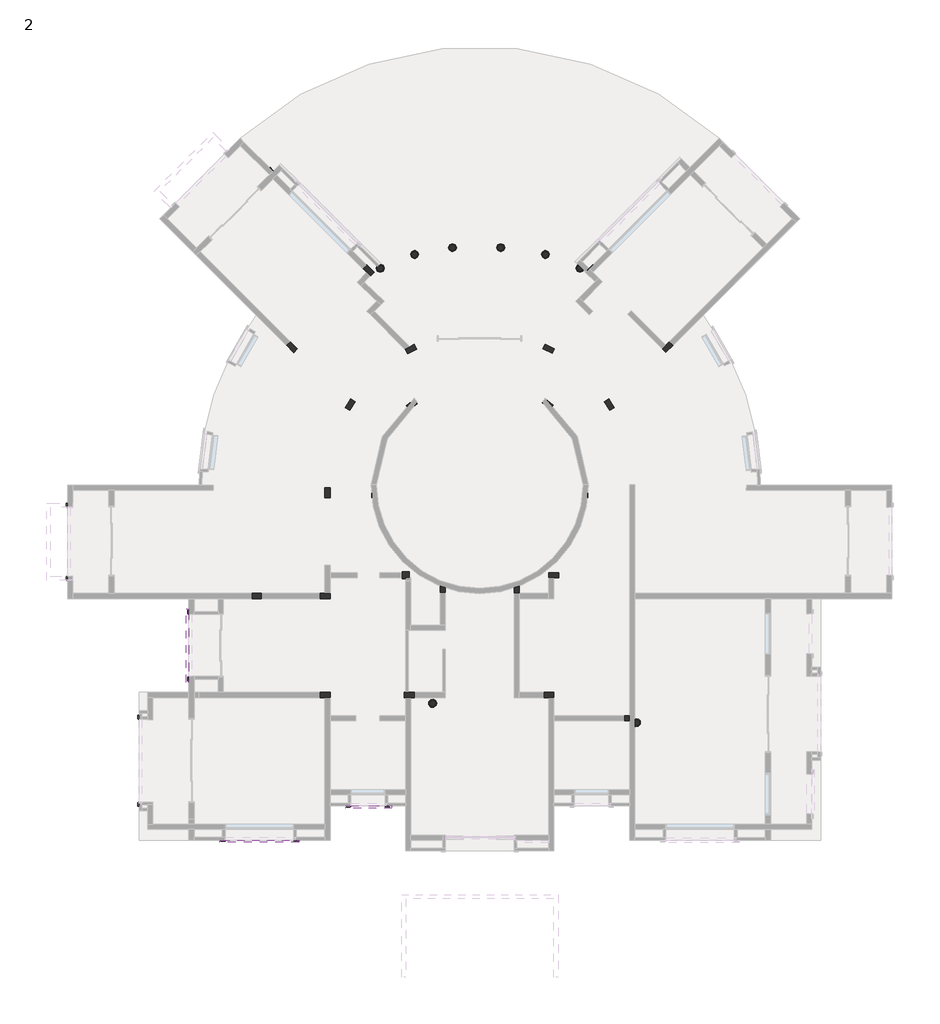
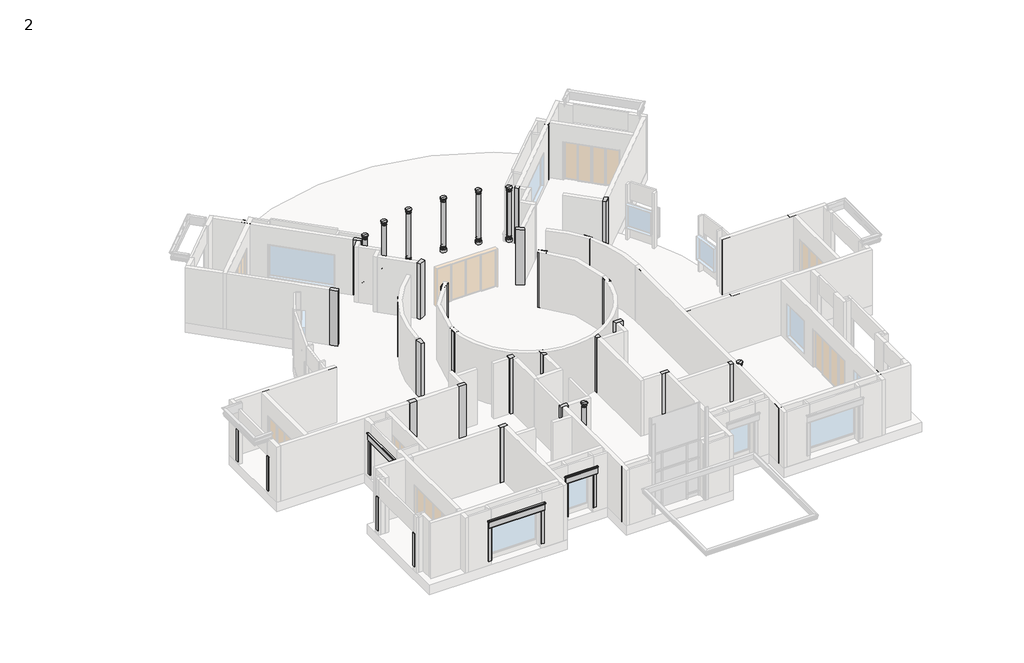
# One storey, part 8 of 10: 43 columns, 13 proxies.
"""IFC4 building model written with IfcOpenShell, lengths in millimetres."""

from ifc_helpers import new_model, si_unit, frame, origin, place, context, project, spatial, polyline, circle_curve, ellipse_curve, outline, extrude, transform, mapped, element, save
from ifc_brep_helpers import plane_surface, cylinder_surface, advanced_brep
from components import columns_1_columns_1_2be72e42, columns_5_columns_1_10ea2eeb, columns_6_columns_1_a7e48300, m_concrete_rectangular_column_300_x_450mm_4033bf20, m_concrete_rectangular_column_c1_cfff0284

model = new_model("IFC4")

# Units and contexts
model_context = context("Model", 3, world=origin())
ifc_project = project(units=[si_unit("LENGTHUNIT", "METRE", prefix="MILLI")], contexts=[model_context])

# Site, building, storey
site = spatial("IfcSite", under=ifc_project)
building = spatial("IfcBuilding", under=site)
storey = spatial("IfcBuildingStorey", under=building, Name="2", Elevation=0.0)

# Proxies
placement = place(None, origin())
element("IfcBuildingElementProxy", 1, Name="Cornice", ObjectType="Cornice", at=placement, inside=storey, context=model_context, shape_type="SweptSolid", body=[
    extrude(outline(polyline([(-19850.494385, -15195.2016601), (-19666.344385, -15195.2016601), (-19666.344385, -15233.3016601), (-19698.094385, -15233.3016601), (-19698.094385, -15246.0016601), (-19850.494385, -15246.0016601), (-19850.494385, -15195.2016601)])), frame((0.0, 0.0, 304.8), z_axis=(0.0, 0.0, 1.0), x_axis=(1.0, 0.0, 0.0)), (0.0, 0.0, 1.0), 2133.6),
])
element("IfcBuildingElementProxy", 2, Name="Cornice", ObjectType="Cornice", at=placement, inside=storey, context=model_context, shape_type="SweptSolid", body=[
    extrude(outline(polyline([(-16434.194385, -15186.1193311), (-16434.194385, -15236.9193311), (-16586.594385, -15236.9193311), (-16586.594385, -15224.2193311), (-16618.344385, -15224.2193311), (-16618.344385, -15186.1193311), (-16434.194385, -15186.1193311)])), frame((0.0, 0.0, 304.8), z_axis=(0.0, 0.0, 1.0), x_axis=(1.0, 0.0, 0.0)), (0.0, 0.0, 1.0), 2133.6),
])
element("IfcBuildingElementProxy", 3, Name="Cornice", ObjectType="Cornice", at=placement, inside=storey, context=model_context, shape_type="SweptSolid", body=[
    extrude(outline(polyline([(-21266.3950906, -8128.2892123), (-21317.1950906, -8128.2892123), (-21317.1950906, -7975.8892123), (-21304.4950906, -7975.8892123), (-21304.4950906, -7944.1392123), (-21266.3950906, -7944.1392123), (-21266.3950906, -8128.2892123)])), frame((0.0, 0.0, 279.4), z_axis=(0.0, 0.0, 1.0), x_axis=(1.0, 0.0, 0.0)), (0.0, 0.0, 1.0), 2159.0),
])
element("IfcBuildingElementProxy", 4, Name="Cornice", ObjectType="Cornice", at=placement, inside=storey, context=model_context, shape_type="SweptSolid", body=[
    extrude(outline(polyline([(-23476.3608197, -13691.1193311), (-23527.1608197, -13691.1193311), (-23527.1608197, -13538.7193311), (-23514.4608197, -13538.7193311), (-23514.4608197, -13506.9693311), (-23476.3608197, -13506.9693311), (-23476.3608197, -13691.1193311)])), frame((0.0, 0.0, 304.8), z_axis=(0.0, 0.0, 1.0), x_axis=(1.0, 0.0, 0.0)), (0.0, 0.0, 1.0), 2133.6),
])
element("IfcBuildingElementProxy", 5, Name="Cornice", ObjectType="Cornice", at=placement, inside=storey, context=model_context, shape_type="SweptSolid", body=[
    extrude(outline(polyline([(-23476.3608197, -9664.4181763), (-23476.3608197, -9848.5681763), (-23514.4608197, -9848.5681763), (-23514.4608197, -9816.8181763), (-23527.1608197, -9816.8181763), (-23527.1608197, -9664.4181763), (-23476.3608197, -9664.4181763)])), frame((0.0, 0.0, 304.8), z_axis=(0.0, 0.0, 1.0), x_axis=(1.0, 0.0, 0.0)), (0.0, 0.0, 1.0), 2133.6),
])
element("IfcBuildingElementProxy", 6, Name="Cornice", ObjectType="Cornice", at=placement, inside=storey, context=model_context, shape_type="SweptSolid", body=[
    extrude(outline(polyline([(-21266.3950906, -5016.2181763), (-21266.3950906, -5200.3681763), (-21304.4950906, -5200.3681763), (-21304.4950906, -5168.6181763), (-21317.1950906, -5168.6181763), (-21317.1950906, -5016.2181763), (-21266.3950906, -5016.2181763)])), frame((0.0, 0.0, 304.8), z_axis=(0.0, 0.0, 1.0), x_axis=(1.0, 0.0, 0.0)), (0.0, 0.0, 1.0), 2133.6),
])
element("IfcBuildingElementProxy", 7, Name="Cornice", ObjectType="Cornice", at=placement, inside=storey, context=model_context, shape_type="SweptSolid", body=[
    extrude(outline(polyline([(-26637.5780453, -272.7681763), (-26637.5780453, -456.9181763), (-26675.6780453, -456.9181763), (-26675.6780453, -425.1681763), (-26688.3780453, -425.1681763), (-26688.3780453, -272.7681763), (-26637.5780453, -272.7681763)])), frame((0.0, 0.0, 177.8), z_axis=(0.0, 0.0, 1.0), x_axis=(1.0, 0.0, 0.0)), (0.0, 0.0, 1.0), 2260.6),
])
element("IfcBuildingElementProxy", 8, Name="Cornice", ObjectType="Cornice", at=placement, inside=storey, context=model_context, shape_type="SweptSolid", body=[
    extrude(outline(polyline([(-26637.5780453, -3689.0681763), (-26688.3780453, -3689.0681763), (-26688.3780453, -3536.6681763), (-26675.6780453, -3536.6681763), (-26675.6780453, -3504.9181763), (-26637.5780453, -3504.9181763), (-26637.5780453, -3689.0681763)])), frame((0.0, 0.0, 254.0), z_axis=(0.0, 0.0, 1.0), x_axis=(1.0, 0.0, 0.0)), (0.0, 0.0, 1.0), 2184.4),
])
element("IfcBuildingElementProxy", 9, Name="Cornice", ObjectType="Cornice", at=placement, inside=storey, context=model_context, shape_type="SweptSolid", body=[
    extrude(outline(polyline([(-14287.894385, -13677.6181763), (-14103.744385, -13677.6181763), (-14103.744385, -13715.7181763), (-14135.494385, -13715.7181763), (-14135.494385, -13728.4181763), (-14287.894385, -13728.4181763), (-14287.894385, -13677.6181763)])), frame((0.0, 0.0, 279.4), z_axis=(0.0, 0.0, 1.0), x_axis=(1.0, 0.0, 0.0)), (0.0, 0.0, 1.0), 2159.0),
])
element("IfcBuildingElementProxy", 10, Name="Cornice", ObjectType="Cornice", at=placement, inside=storey, context=model_context, shape_type="SweptSolid", body=[
    extrude(outline(polyline([(-12395.594385, -13677.6181763), (-12395.594385, -13728.4181763), (-12547.994385, -13728.4181763), (-12547.994385, -13715.7181763), (-12579.744385, -13715.7181763), (-12579.744385, -13677.6181763), (-12395.594385, -13677.6181763)])), frame((0.0, 0.0, 330.2), z_axis=(0.0, 0.0, 1.0), x_axis=(1.0, 0.0, 0.0)), (0.0, 0.0, 1.0), 2108.2),
])
element("IfcBuildingElementProxy", 11, Name="Cornice 2", ObjectType="Cornice 2", at=placement, inside=storey, context=model_context, shape_type="AdvancedBrep", body=[
    advanced_brep(
    [(-21266.3950906, -4940.0181763, 2933.7), (-21266.3950906, -5047.9681763, 2933.7), (-21266.3950906, -5047.9681763, 2438.4), (-21266.3950906, -4987.2750329, 2438.4), (-21266.3950906, -4987.2750329, 2482.85), (-21266.3950906, -4974.5750329, 2482.85), (-21266.3950906, -4974.5750329, 2838.45), (-21266.3950906, -4959.0681763, 2838.45), (-21266.3950906, -4959.0681763, 2857.5), (-21266.3950906, -4959.0681763, 2908.3), (-21266.3950906, -4940.0181763, 2908.3), (-21374.3450906, -4940.0181763, 2933.7), (-21327.0882339, -4987.2750329, 2438.4), (-21327.0882339, -4987.2750329, 2482.85), (-21339.7882339, -4974.5750329, 2482.85), (-21339.7882339, -4974.5750329, 2838.45), (-21355.2950906, -4959.0681763, 2838.45), (-21355.2950906, -4959.0681763, 2857.5), (-21355.2950906, -4959.0681763, 2908.3), (-21374.3450906, -4940.0181763, 2908.3), (-21374.3450906, -8203.9181763, 2933.7), (-21266.3950906, -8095.9681763, 2933.7), (-21266.3950906, -8095.9681763, 2438.4), (-21327.0882339, -8156.6613196, 2438.4), (-21327.0882339, -8156.6613196, 2482.85), (-21339.7882339, -8169.3613196, 2482.85), (-21339.7882339, -8169.3613196, 2838.45), (-21355.2950906, -8184.8681763, 2838.45), (-21355.2950906, -8184.8681763, 2857.5), (-21355.2950906, -8184.8681763, 2908.3), (-21374.3450906, -8203.9181763, 2908.3), (-21266.3950906, -8203.9181763, 2933.7), (-21266.3950906, -8203.9181763, 2908.3), (-21266.3950906, -8184.8681763, 2908.3), (-21266.3950906, -8184.8681763, 2857.5), (-21266.3950906, -8184.8681763, 2838.45), (-21266.3950906, -8169.3613196, 2838.45), (-21266.3950906, -8169.3613196, 2482.85), (-21266.3950906, -8156.6613196, 2482.85), (-21266.3950906, -8156.6613196, 2438.4)],
    [
        (0, 1),
        (1, 2),
        (2, 3),
        (3, 4),
        (4, 5),
        (5, 6),
        (6, 7),
        (7, 8),
        (8, 9, circle_curve(frame((-21266.3950906, -4971.4961174, 2882.9), z_axis=(1.0, 0.0, 0.0), x_axis=(0.0, 1.0, 0.0)), 28.2774419)),
        (9, 10),
        (10, 0),
        (0, 11),
        (11, 1),
        (2, 12),
        (12, 3),
        (12, 13),
        (13, 4),
        (13, 14),
        (14, 5),
        (14, 15),
        (15, 6),
        (15, 16),
        (16, 7),
        (16, 17),
        (17, 8),
        (17, 18, ellipse_curve(frame((-21342.8671494, -4971.4961174, 2882.9), z_axis=(0.7071067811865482, 0.7071067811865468, 0.0), x_axis=(0.7071067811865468, -0.7071067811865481, 0.0)), 39.9903419, 28.2774419)),
        (18, 9),
        (18, 19),
        (19, 10),
        (19, 11),
        (11, 20),
        (20, 21),
        (21, 1),
        (21, 22),
        (22, 2),
        (22, 23),
        (23, 12),
        (23, 24),
        (24, 13),
        (24, 25),
        (25, 14),
        (25, 26),
        (26, 15),
        (26, 27),
        (27, 16),
        (27, 28),
        (28, 17),
        (28, 29, ellipse_curve(frame((-21342.8671494, -8172.4402351, 2882.9), z_axis=(-0.7071067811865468, 0.7071067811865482, 0.0), x_axis=(0.7071067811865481, 0.7071067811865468, 0.0)), 39.9903419, 28.2774419)),
        (29, 18),
        (29, 30),
        (30, 19),
        (30, 20),
        (31, 32),
        (32, 33),
        (33, 34, circle_curve(frame((-21266.3950906, -8172.4402351, 2882.9), z_axis=(1.0, 0.0, 0.0), x_axis=(0.0, -1.0, 0.0)), 28.2774419)),
        (34, 35),
        (35, 36),
        (36, 37),
        (37, 38),
        (38, 39),
        (39, 22),
        (21, 31),
        (20, 31),
        (39, 23),
        (38, 24),
        (37, 25),
        (36, 26),
        (35, 27),
        (34, 28),
        (33, 29),
        (32, 30),
    ],
    [
        plane_surface(frame((-21266.3950906, -5200.3681763, 2438.4), z_axis=(1.0, 0.0, 0.0), x_axis=(0.0, -1.0, 0.0))),
        plane_surface(frame((-21266.3950906, -4940.0181763, 2933.7), z_axis=(0.0, 0.0, 1.0), x_axis=(-1.0, 0.0, 0.0))),
        plane_surface(frame((-21266.3950906, -5047.9681763, 2438.4), z_axis=(0.0, 0.0, -1.0), x_axis=(-1.0, 0.0, 0.0))),
        plane_surface(frame((-21266.3950906, -4987.2750329, 2438.4), z_axis=(0.0, 1.0, 0.0), x_axis=(-1.0, 0.0, 0.0))),
        plane_surface(frame((-21266.3950906, -4987.2750329, 2482.85), z_axis=(0.0, 0.0, -1.0), x_axis=(-1.0, 0.0, 0.0))),
        plane_surface(frame((-21266.3950906, -4974.5750329, 2482.85), z_axis=(0.0, 1.0, 0.0), x_axis=(-1.0, 0.0, 0.0))),
        plane_surface(frame((-21266.3950906, -4974.5750329, 2838.45), z_axis=(0.0, 0.0, -1.0), x_axis=(-1.0, 0.0, 0.0))),
        plane_surface(frame((-21266.3950906, -4959.0681763, 2838.45), z_axis=(0.0, 1.0, 0.0), x_axis=(-1.0, 0.0, 0.0))),
        cylinder_surface(frame((-21266.3950906, -4971.4961174, 2882.9), z_axis=(1.0, 0.0, 0.0), x_axis=(0.0, 1.0, 0.0)), 28.2774419),
        plane_surface(frame((-21266.3950906, -4959.0681763, 2908.3), z_axis=(0.0, 0.0, -1.0), x_axis=(-1.0, 0.0, 0.0))),
        plane_surface(frame((-21266.3950906, -4940.0181763, 2908.3), z_axis=(0.0, 1.0, 0.0), x_axis=(-1.0, 0.0, 0.0))),
        plane_surface(frame((-21374.3450906, -4940.0181763, 2933.7), z_axis=(0.0, 0.0, 1.0), x_axis=(0.0, -1.0, 0.0))),
        plane_surface(frame((-21266.3950906, -5047.9681763, 2933.7), z_axis=(1.0, 0.0, 0.0), x_axis=(0.0, -1.0, 0.0))),
        plane_surface(frame((-21266.3950906, -5047.9681763, 2438.4), z_axis=(0.0, 0.0, -1.0), x_axis=(0.0, -1.0, 0.0))),
        plane_surface(frame((-21327.0882339, -4987.2750329, 2438.4), z_axis=(-1.0, 0.0, 0.0), x_axis=(0.0, -1.0, 0.0))),
        plane_surface(frame((-21327.0882339, -4987.2750329, 2482.85), z_axis=(0.0, 0.0, -1.0), x_axis=(0.0, -1.0, 0.0))),
        plane_surface(frame((-21339.7882339, -4974.5750329, 2482.85), z_axis=(-1.0, 0.0, 0.0), x_axis=(0.0, -1.0, 0.0))),
        plane_surface(frame((-21339.7882339, -4974.5750329, 2838.45), z_axis=(0.0, 0.0, -1.0), x_axis=(0.0, -1.0, 0.0))),
        plane_surface(frame((-21355.2950906, -4959.0681763, 2838.45), z_axis=(-1.0, 0.0, 0.0), x_axis=(0.0, -1.0, 0.0))),
        cylinder_surface(frame((-21342.8671494, -5047.9681763, 2882.9), z_axis=(0.0, 1.0, 0.0), x_axis=(-1.0, 0.0, 0.0)), 28.2774419),
        plane_surface(frame((-21355.2950906, -4959.0681763, 2908.3), z_axis=(0.0, 0.0, -1.0), x_axis=(0.0, -1.0, 0.0))),
        plane_surface(frame((-21374.3450906, -4940.0181763, 2908.3), z_axis=(-1.0, 0.0, 0.0), x_axis=(0.0, -1.0, 0.0))),
        plane_surface(frame((-21374.3450906, -8203.9181763, 2933.7), z_axis=(0.0, 0.0, 1.0), x_axis=(1.0, 0.0, 0.0))),
        plane_surface(frame((-21266.3950906, -8095.9681763, 2438.4), z_axis=(0.0, 0.0, -1.0), x_axis=(1.0, 0.0, 0.0))),
        plane_surface(frame((-21327.0882339, -8156.6613196, 2438.4), z_axis=(0.0, -1.0, 0.0), x_axis=(1.0, 0.0, 0.0))),
        plane_surface(frame((-21327.0882339, -8156.6613196, 2482.85), z_axis=(0.0, 0.0, -1.0), x_axis=(1.0, 0.0, 0.0))),
        plane_surface(frame((-21339.7882339, -8169.3613196, 2482.85), z_axis=(0.0, -1.0, 0.0), x_axis=(1.0, 0.0, 0.0))),
        plane_surface(frame((-21339.7882339, -8169.3613196, 2838.45), z_axis=(0.0, 0.0, -1.0), x_axis=(1.0, 0.0, 0.0))),
        plane_surface(frame((-21355.2950906, -8184.8681763, 2838.45), z_axis=(0.0, -1.0, 0.0), x_axis=(1.0, 0.0, 0.0))),
        cylinder_surface(frame((-21266.3950906, -8172.4402351, 2882.9), z_axis=(-1.0, 0.0, 0.0), x_axis=(0.0, -1.0, 0.0)), 28.2774419),
        plane_surface(frame((-21355.2950906, -8184.8681763, 2908.3), z_axis=(0.0, 0.0, -1.0), x_axis=(1.0, 0.0, 0.0))),
        plane_surface(frame((-21374.3450906, -8203.9181763, 2908.3), z_axis=(0.0, -1.0, 0.0), x_axis=(1.0, 0.0, 0.0))),
    ],
    [
        (0, [[1, 2, 3, 4, 5, 6, 7, 8, 9, 10, 11]]),
        (1, [[-1, 12, 13]]),
        (2, [[-3, 14, 15]]),
        (3, [[-4, -15, 16, 17]]),
        (4, [[-5, -17, 18, 19]]),
        (5, [[-6, -19, 20, 21]]),
        (6, [[-7, -21, 22, 23]]),
        (7, [[-8, -23, 24, 25]]),
        (8, [[-9, -25, 26, 27]]),
        (9, [[-10, -27, 28, 29]]),
        (10, [[-11, -29, 30, -12]]),
        (11, [[-13, 31, 32, 33]]),
        (12, [[-2, -33, 34, 35]]),
        (13, [[-14, -35, 36, 37]]),
        (14, [[-16, -37, 38, 39]]),
        (15, [[-18, -39, 40, 41]]),
        (16, [[-20, -41, 42, 43]]),
        (17, [[-22, -43, 44, 45]]),
        (18, [[-24, -45, 46, 47]]),
        (19, [[-26, -47, 48, 49]]),
        (20, [[-28, -49, 50, 51]]),
        (21, [[-30, -51, 52, -31]]),
        (0, [[53, 54, 55, 56, 57, 58, 59, 60, 61, -34, 62]]),
        (22, [[-32, 63, -62]]),
        (23, [[-36, -61, 64]]),
        (24, [[-38, -64, -60, 65]]),
        (25, [[-40, -65, -59, 66]]),
        (26, [[-42, -66, -58, 67]]),
        (27, [[-44, -67, -57, 68]]),
        (28, [[-46, -68, -56, 69]]),
        (29, [[-48, -69, -55, 70]]),
        (30, [[-50, -70, -54, 71]]),
        (31, [[-52, -71, -53, -63]]),
    ],
),
])
element("IfcBuildingElementProxy", 12, Name="Cornice 2", ObjectType="Cornice 2", at=placement, inside=storey, context=model_context, shape_type="AdvancedBrep", body=[
    advanced_brep(
    [(-19899.9568629, -15186.1193311, 2933.7), (-19792.0068629, -15186.1193311, 2933.7), (-19792.0068629, -15186.1193311, 2438.4), (-19852.7000062, -15186.1193311, 2438.4), (-19852.7000062, -15186.1193311, 2482.85), (-19865.4000062, -15186.1193311, 2482.85), (-19865.4000062, -15186.1193311, 2838.45), (-19880.9068629, -15186.1193311, 2838.45), (-19880.9068629, -15186.1193311, 2857.5), (-19880.9068629, -15186.1193311, 2908.3), (-19899.9568629, -15186.1193311, 2908.3), (-19899.9568629, -15294.0693311, 2933.7), (-19852.7000062, -15246.8124745, 2438.4), (-19852.7000062, -15246.8124745, 2482.85), (-19865.4000062, -15259.5124745, 2482.85), (-19865.4000062, -15259.5124745, 2838.45), (-19880.9068629, -15275.0193311, 2838.45), (-19880.9068629, -15275.0193311, 2857.5), (-19880.9068629, -15275.0193311, 2908.3), (-19899.9568629, -15294.0693311, 2908.3), (-16382.3027729, -15294.0693311, 2933.7), (-16490.2527729, -15186.1193311, 2933.7), (-16490.2527729, -15186.1193311, 2438.4), (-16429.5596295, -15246.8124745, 2438.4), (-16429.5596295, -15246.8124745, 2482.85), (-16416.8596295, -15259.5124745, 2482.85), (-16416.8596295, -15259.5124745, 2838.45), (-16401.3527729, -15275.0193311, 2838.45), (-16401.3527729, -15275.0193311, 2857.5), (-16401.3527729, -15275.0193311, 2908.3), (-16382.3027729, -15294.0693311, 2908.3), (-16382.3027729, -15186.1193311, 2933.7), (-16382.3027729, -15186.1193311, 2908.3), (-16401.3527729, -15186.1193311, 2908.3), (-16401.3527729, -15186.1193311, 2857.5), (-16401.3527729, -15186.1193311, 2838.45), (-16416.8596295, -15186.1193311, 2838.45), (-16416.8596295, -15186.1193311, 2482.85), (-16429.5596295, -15186.1193311, 2482.85), (-16429.5596295, -15186.1193311, 2438.4)],
    [
        (0, 1),
        (1, 2),
        (2, 3),
        (3, 4),
        (4, 5),
        (5, 6),
        (6, 7),
        (7, 8),
        (8, 9, circle_curve(frame((-19868.4789217, -15186.1193311, 2882.9), z_axis=(0.0, 1.0, 0.0), x_axis=(-1.0, 0.0, 0.0)), 28.2774419)),
        (9, 10),
        (10, 0),
        (0, 11),
        (11, 1),
        (2, 12),
        (12, 3),
        (12, 13),
        (13, 4),
        (13, 14),
        (14, 5),
        (14, 15),
        (15, 6),
        (15, 16),
        (16, 7),
        (16, 17),
        (17, 8),
        (17, 18, ellipse_curve(frame((-19868.4789217, -15262.59139, 2882.9), z_axis=(-0.7071067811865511, 0.7071067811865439, 0.0), x_axis=(0.707106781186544, 0.7071067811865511, 0.0)), 39.9903419, 28.2774419)),
        (18, 9),
        (18, 19),
        (19, 10),
        (19, 11),
        (11, 20),
        (20, 21),
        (21, 1),
        (21, 22),
        (22, 2),
        (22, 23),
        (23, 12),
        (23, 24),
        (24, 13),
        (24, 25),
        (25, 14),
        (25, 26),
        (26, 15),
        (26, 27),
        (27, 16),
        (27, 28),
        (28, 17),
        (28, 29, ellipse_curve(frame((-16413.780714, -15262.59139, 2882.9), z_axis=(-0.7071067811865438, -0.7071067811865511, 0.0), x_axis=(-0.7071067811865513, 0.7071067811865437, 0.0)), 39.9903419, 28.2774419)),
        (29, 18),
        (29, 30),
        (30, 19),
        (30, 20),
        (31, 32),
        (32, 33),
        (33, 34, circle_curve(frame((-16413.780714, -15186.1193311, 2882.9), z_axis=(0.0, 1.0, 0.0), x_axis=(1.0, 0.0, 0.0)), 28.2774419)),
        (34, 35),
        (35, 36),
        (36, 37),
        (37, 38),
        (38, 39),
        (39, 22),
        (21, 31),
        (20, 31),
        (39, 23),
        (38, 24),
        (37, 25),
        (36, 26),
        (35, 27),
        (34, 28),
        (33, 29),
        (32, 30),
    ],
    [
        plane_surface(frame((-19666.344385, -15186.1193311, 2438.4), z_axis=(0.0, 1.0, 0.0), x_axis=(1.0, 0.0, 0.0))),
        plane_surface(frame((-19899.9568629, -15186.1193311, 2933.7), z_axis=(0.0, 0.0, 1.0), x_axis=(0.0, -1.0, 0.0))),
        plane_surface(frame((-19792.0068629, -15186.1193311, 2438.4), z_axis=(0.0, 0.0, -1.0), x_axis=(0.0, -1.0, 0.0))),
        plane_surface(frame((-19852.7000062, -15186.1193311, 2438.4), z_axis=(-1.0, 0.0, 0.0), x_axis=(0.0, -1.0, 0.0))),
        plane_surface(frame((-19852.7000062, -15186.1193311, 2482.85), z_axis=(0.0, 0.0, -1.0), x_axis=(0.0, -1.0, 0.0))),
        plane_surface(frame((-19865.4000062, -15186.1193311, 2482.85), z_axis=(-1.0, 0.0, 0.0), x_axis=(0.0, -1.0, 0.0))),
        plane_surface(frame((-19865.4000062, -15186.1193311, 2838.45), z_axis=(0.0, 0.0, -1.0), x_axis=(0.0, -1.0, 0.0))),
        plane_surface(frame((-19880.9068629, -15186.1193311, 2838.45), z_axis=(-1.0, 0.0, 0.0), x_axis=(0.0, -1.0, 0.0))),
        cylinder_surface(frame((-19868.4789217, -15186.1193311, 2882.9), z_axis=(0.0, 1.0, 0.0), x_axis=(-1.0, 0.0, 0.0)), 28.2774419),
        plane_surface(frame((-19880.9068629, -15186.1193311, 2908.3), z_axis=(0.0, 0.0, -1.0), x_axis=(0.0, -1.0, 0.0))),
        plane_surface(frame((-19899.9568629, -15186.1193311, 2908.3), z_axis=(-1.0, 0.0, 0.0), x_axis=(0.0, -1.0, 0.0))),
        plane_surface(frame((-19899.9568629, -15294.0693311, 2933.7), z_axis=(0.0, 0.0, 1.0), x_axis=(1.0, 0.0, 0.0))),
        plane_surface(frame((-19792.0068629, -15186.1193311, 2933.7), z_axis=(0.0, 1.0, 0.0), x_axis=(1.0, 0.0, 0.0))),
        plane_surface(frame((-19792.0068629, -15186.1193311, 2438.4), z_axis=(0.0, 0.0, -1.0), x_axis=(1.0, 0.0, 0.0))),
        plane_surface(frame((-19852.7000062, -15246.8124745, 2438.4), z_axis=(0.0, -1.0, 0.0), x_axis=(1.0, 0.0, 0.0))),
        plane_surface(frame((-19852.7000062, -15246.8124745, 2482.85), z_axis=(0.0, 0.0, -1.0), x_axis=(1.0, 0.0, 0.0))),
        plane_surface(frame((-19865.4000062, -15259.5124745, 2482.85), z_axis=(0.0, -1.0, 0.0), x_axis=(1.0, 0.0, 0.0))),
        plane_surface(frame((-19865.4000062, -15259.5124745, 2838.45), z_axis=(0.0, 0.0, -1.0), x_axis=(1.0, 0.0, 0.0))),
        plane_surface(frame((-19880.9068629, -15275.0193311, 2838.45), z_axis=(0.0, -1.0, 0.0), x_axis=(1.0, 0.0, 0.0))),
        cylinder_surface(frame((-19792.0068629, -15262.59139, 2882.9), z_axis=(-1.0, 0.0, 0.0), x_axis=(0.0, -1.0, 0.0)), 28.2774419),
        plane_surface(frame((-19880.9068629, -15275.0193311, 2908.3), z_axis=(0.0, 0.0, -1.0), x_axis=(1.0, 0.0, 0.0))),
        plane_surface(frame((-19899.9568629, -15294.0693311, 2908.3), z_axis=(0.0, -1.0, 0.0), x_axis=(1.0, 0.0, 0.0))),
        plane_surface(frame((-16382.3027729, -15294.0693311, 2933.7), z_axis=(0.0, 0.0, 1.0), x_axis=(0.0, 1.0, 0.0))),
        plane_surface(frame((-16490.2527729, -15186.1193311, 2438.4), z_axis=(0.0, 0.0, -1.0), x_axis=(0.0, 1.0, 0.0))),
        plane_surface(frame((-16429.5596295, -15246.8124745, 2438.4), z_axis=(1.0, 0.0, 0.0), x_axis=(0.0, 1.0, 0.0))),
        plane_surface(frame((-16429.5596295, -15246.8124745, 2482.85), z_axis=(0.0, 0.0, -1.0), x_axis=(0.0, 1.0, 0.0))),
        plane_surface(frame((-16416.8596295, -15259.5124745, 2482.85), z_axis=(1.0, 0.0, 0.0), x_axis=(0.0, 1.0, 0.0))),
        plane_surface(frame((-16416.8596295, -15259.5124745, 2838.45), z_axis=(0.0, 0.0, -1.0), x_axis=(0.0, 1.0, 0.0))),
        plane_surface(frame((-16401.3527729, -15275.0193311, 2838.45), z_axis=(1.0, 0.0, 0.0), x_axis=(0.0, 1.0, 0.0))),
        cylinder_surface(frame((-16413.780714, -15186.1193311, 2882.9), z_axis=(0.0, -1.0, 0.0), x_axis=(1.0, 0.0, 0.0)), 28.2774419),
        plane_surface(frame((-16401.3527729, -15275.0193311, 2908.3), z_axis=(0.0, 0.0, -1.0), x_axis=(0.0, 1.0, 0.0))),
        plane_surface(frame((-16382.3027729, -15294.0693311, 2908.3), z_axis=(1.0, 0.0, 0.0), x_axis=(0.0, 1.0, 0.0))),
    ],
    [
        (0, [[1, 2, 3, 4, 5, 6, 7, 8, 9, 10, 11]]),
        (1, [[-1, 12, 13]]),
        (2, [[-3, 14, 15]]),
        (3, [[-4, -15, 16, 17]]),
        (4, [[-5, -17, 18, 19]]),
        (5, [[-6, -19, 20, 21]]),
        (6, [[-7, -21, 22, 23]]),
        (7, [[-8, -23, 24, 25]]),
        (8, [[-9, -25, 26, 27]]),
        (9, [[-10, -27, 28, 29]]),
        (10, [[-11, -29, 30, -12]]),
        (11, [[-13, 31, 32, 33]]),
        (12, [[-2, -33, 34, 35]]),
        (13, [[-14, -35, 36, 37]]),
        (14, [[-16, -37, 38, 39]]),
        (15, [[-18, -39, 40, 41]]),
        (16, [[-20, -41, 42, 43]]),
        (17, [[-22, -43, 44, 45]]),
        (18, [[-24, -45, 46, 47]]),
        (19, [[-26, -47, 48, 49]]),
        (20, [[-28, -49, 50, 51]]),
        (21, [[-30, -51, 52, -31]]),
        (0, [[53, 54, 55, 56, 57, 58, 59, 60, 61, -34, 62]]),
        (22, [[-32, 63, -62]]),
        (23, [[-36, -61, 64]]),
        (24, [[-38, -64, -60, 65]]),
        (25, [[-40, -65, -59, 66]]),
        (26, [[-42, -66, -58, 67]]),
        (27, [[-44, -67, -57, 68]]),
        (28, [[-46, -68, -56, 69]]),
        (29, [[-48, -69, -55, 70]]),
        (30, [[-50, -70, -54, 71]]),
        (31, [[-52, -71, -53, -63]]),
    ],
),
])
element("IfcBuildingElementProxy", 13, Name="Cornice 2", ObjectType="Cornice 2", at=placement, inside=storey, context=model_context, shape_type="AdvancedBrep", body=[
    advanced_brep(
    [(-14319.644385, -13677.6181763, 2933.7), (-14211.694385, -13677.6181763, 2933.7), (-14211.694385, -13677.6181763, 2438.4), (-14272.3875283, -13677.6181763, 2438.4), (-14272.3875283, -13677.6181763, 2482.85), (-14285.0875283, -13677.6181763, 2482.85), (-14285.0875283, -13677.6181763, 2838.45), (-14300.594385, -13677.6181763, 2838.45), (-14300.594385, -13677.6181763, 2857.5), (-14300.594385, -13677.6181763, 2908.3), (-14319.644385, -13677.6181763, 2908.3), (-14319.644385, -13785.5681763, 2933.7), (-14272.3875283, -13738.3113196, 2438.4), (-14272.3875283, -13738.3113196, 2482.85), (-14285.0875283, -13751.0113196, 2482.85), (-14285.0875283, -13751.0113196, 2838.45), (-14300.594385, -13766.5181763, 2838.45), (-14300.594385, -13766.5181763, 2857.5), (-14300.594385, -13766.5181763, 2908.3), (-14319.644385, -13785.5681763, 2908.3), (-12287.644385, -13785.5681763, 2933.7), (-12395.594385, -13677.6181763, 2933.7), (-12395.594385, -13677.6181763, 2438.4), (-12334.9012417, -13738.3113196, 2438.4), (-12334.9012417, -13738.3113196, 2482.85), (-12322.2012417, -13751.0113196, 2482.85), (-12322.2012417, -13751.0113196, 2838.45), (-12306.694385, -13766.5181763, 2838.45), (-12306.694385, -13766.5181763, 2857.5), (-12306.694385, -13766.5181763, 2908.3), (-12287.644385, -13785.5681763, 2908.3), (-12287.644385, -13677.6181763, 2933.7), (-12287.644385, -13677.6181763, 2908.3), (-12306.694385, -13677.6181763, 2908.3), (-12306.694385, -13677.6181763, 2857.5), (-12306.694385, -13677.6181763, 2838.45), (-12322.2012417, -13677.6181763, 2838.45), (-12322.2012417, -13677.6181763, 2482.85), (-12334.9012417, -13677.6181763, 2482.85), (-12334.9012417, -13677.6181763, 2438.4)],
    [
        (0, 1),
        (1, 2),
        (2, 3),
        (3, 4),
        (4, 5),
        (5, 6),
        (6, 7),
        (7, 8),
        (8, 9, circle_curve(frame((-14288.1664439, -13677.6181763, 2882.9), z_axis=(0.0, 1.0, 0.0), x_axis=(-1.0, 0.0, 0.0)), 28.2774419)),
        (9, 10),
        (10, 0),
        (0, 11),
        (11, 1),
        (2, 12),
        (12, 3),
        (12, 13),
        (13, 4),
        (13, 14),
        (14, 5),
        (14, 15),
        (15, 6),
        (15, 16),
        (16, 7),
        (16, 17),
        (17, 8),
        (17, 18, ellipse_curve(frame((-14288.1664439, -13754.0902351, 2882.9), z_axis=(-0.7071067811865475, 0.7071067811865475, 0.0), x_axis=(0.7071067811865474, 0.7071067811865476, 0.0)), 39.9903419, 28.2774419)),
        (18, 9),
        (18, 19),
        (19, 10),
        (19, 11),
        (11, 20),
        (20, 21),
        (21, 1),
        (21, 22),
        (22, 2),
        (22, 23),
        (23, 12),
        (23, 24),
        (24, 13),
        (24, 25),
        (25, 14),
        (25, 26),
        (26, 15),
        (26, 27),
        (27, 16),
        (27, 28),
        (28, 17),
        (28, 29, ellipse_curve(frame((-12319.1223262, -13754.0902351, 2882.9), z_axis=(-0.7071067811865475, -0.7071067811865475, 0.0), x_axis=(-0.7071067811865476, 0.7071067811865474, 0.0)), 39.9903419, 28.2774419)),
        (29, 18),
        (29, 30),
        (30, 19),
        (30, 20),
        (31, 32),
        (32, 33),
        (33, 34, circle_curve(frame((-12319.1223262, -13677.6181763, 2882.9), z_axis=(0.0, 1.0, 0.0), x_axis=(1.0, 0.0, 0.0)), 28.2774419)),
        (34, 35),
        (35, 36),
        (36, 37),
        (37, 38),
        (38, 39),
        (39, 22),
        (21, 31),
        (20, 31),
        (39, 23),
        (38, 24),
        (37, 25),
        (36, 26),
        (35, 27),
        (34, 28),
        (33, 29),
        (32, 30),
    ],
    [
        plane_surface(frame((-14103.744385, -13677.6181763, 2438.4), z_axis=(0.0, 1.0, 0.0), x_axis=(1.0, 0.0, 0.0))),
        plane_surface(frame((-14319.644385, -13677.6181763, 2933.7), z_axis=(0.0, 0.0, 1.0), x_axis=(0.0, -1.0, 0.0))),
        plane_surface(frame((-14211.694385, -13677.6181763, 2438.4), z_axis=(0.0, 0.0, -1.0), x_axis=(0.0, -1.0, 0.0))),
        plane_surface(frame((-14272.3875283, -13677.6181763, 2438.4), z_axis=(-1.0, 0.0, 0.0), x_axis=(0.0, -1.0, 0.0))),
        plane_surface(frame((-14272.3875283, -13677.6181763, 2482.85), z_axis=(0.0, 0.0, -1.0), x_axis=(0.0, -1.0, 0.0))),
        plane_surface(frame((-14285.0875283, -13677.6181763, 2482.85), z_axis=(-1.0, 0.0, 0.0), x_axis=(0.0, -1.0, 0.0))),
        plane_surface(frame((-14285.0875283, -13677.6181763, 2838.45), z_axis=(0.0, 0.0, -1.0), x_axis=(0.0, -1.0, 0.0))),
        plane_surface(frame((-14300.594385, -13677.6181763, 2838.45), z_axis=(-1.0, 0.0, 0.0), x_axis=(0.0, -1.0, 0.0))),
        cylinder_surface(frame((-14288.1664439, -13677.6181763, 2882.9), z_axis=(0.0, 1.0, 0.0), x_axis=(-1.0, 0.0, 0.0)), 28.2774419),
        plane_surface(frame((-14300.594385, -13677.6181763, 2908.3), z_axis=(0.0, 0.0, -1.0), x_axis=(0.0, -1.0, 0.0))),
        plane_surface(frame((-14319.644385, -13677.6181763, 2908.3), z_axis=(-1.0, 0.0, 0.0), x_axis=(0.0, -1.0, 0.0))),
        plane_surface(frame((-14319.644385, -13785.5681763, 2933.7), z_axis=(0.0, 0.0, 1.0), x_axis=(1.0, 0.0, 0.0))),
        plane_surface(frame((-14211.694385, -13677.6181763, 2933.7), z_axis=(0.0, 1.0, 0.0), x_axis=(1.0, 0.0, 0.0))),
        plane_surface(frame((-14211.694385, -13677.6181763, 2438.4), z_axis=(0.0, 0.0, -1.0), x_axis=(1.0, 0.0, 0.0))),
        plane_surface(frame((-14272.3875283, -13738.3113196, 2438.4), z_axis=(0.0, -1.0, 0.0), x_axis=(1.0, 0.0, 0.0))),
        plane_surface(frame((-14272.3875283, -13738.3113196, 2482.85), z_axis=(0.0, 0.0, -1.0), x_axis=(1.0, 0.0, 0.0))),
        plane_surface(frame((-14285.0875283, -13751.0113196, 2482.85), z_axis=(0.0, -1.0, 0.0), x_axis=(1.0, 0.0, 0.0))),
        plane_surface(frame((-14285.0875283, -13751.0113196, 2838.45), z_axis=(0.0, 0.0, -1.0), x_axis=(1.0, 0.0, 0.0))),
        plane_surface(frame((-14300.594385, -13766.5181763, 2838.45), z_axis=(0.0, -1.0, 0.0), x_axis=(1.0, 0.0, 0.0))),
        cylinder_surface(frame((-14211.694385, -13754.0902351, 2882.9), z_axis=(-1.0, 0.0, 0.0), x_axis=(0.0, -1.0, 0.0)), 28.2774419),
        plane_surface(frame((-14300.594385, -13766.5181763, 2908.3), z_axis=(0.0, 0.0, -1.0), x_axis=(1.0, 0.0, 0.0))),
        plane_surface(frame((-14319.644385, -13785.5681763, 2908.3), z_axis=(0.0, -1.0, 0.0), x_axis=(1.0, 0.0, 0.0))),
        plane_surface(frame((-12287.644385, -13785.5681763, 2933.7), z_axis=(0.0, 0.0, 1.0), x_axis=(0.0, 1.0, 0.0))),
        plane_surface(frame((-12395.594385, -13677.6181763, 2438.4), z_axis=(0.0, 0.0, -1.0), x_axis=(0.0, 1.0, 0.0))),
        plane_surface(frame((-12334.9012417, -13738.3113196, 2438.4), z_axis=(1.0, 0.0, 0.0), x_axis=(0.0, 1.0, 0.0))),
        plane_surface(frame((-12334.9012417, -13738.3113196, 2482.85), z_axis=(0.0, 0.0, -1.0), x_axis=(0.0, 1.0, 0.0))),
        plane_surface(frame((-12322.2012417, -13751.0113196, 2482.85), z_axis=(1.0, 0.0, 0.0), x_axis=(0.0, 1.0, 0.0))),
        plane_surface(frame((-12322.2012417, -13751.0113196, 2838.45), z_axis=(0.0, 0.0, -1.0), x_axis=(0.0, 1.0, 0.0))),
        plane_surface(frame((-12306.694385, -13766.5181763, 2838.45), z_axis=(1.0, 0.0, 0.0), x_axis=(0.0, 1.0, 0.0))),
        cylinder_surface(frame((-12319.1223262, -13677.6181763, 2882.9), z_axis=(0.0, -1.0, 0.0), x_axis=(1.0, 0.0, 0.0)), 28.2774419),
        plane_surface(frame((-12306.694385, -13766.5181763, 2908.3), z_axis=(0.0, 0.0, -1.0), x_axis=(0.0, 1.0, 0.0))),
        plane_surface(frame((-12287.644385, -13785.5681763, 2908.3), z_axis=(1.0, 0.0, 0.0), x_axis=(0.0, 1.0, 0.0))),
    ],
    [
        (0, [[1, 2, 3, 4, 5, 6, 7, 8, 9, 10, 11]]),
        (1, [[-1, 12, 13]]),
        (2, [[-3, 14, 15]]),
        (3, [[-4, -15, 16, 17]]),
        (4, [[-5, -17, 18, 19]]),
        (5, [[-6, -19, 20, 21]]),
        (6, [[-7, -21, 22, 23]]),
        (7, [[-8, -23, 24, 25]]),
        (8, [[-9, -25, 26, 27]]),
        (9, [[-10, -27, 28, 29]]),
        (10, [[-11, -29, 30, -12]]),
        (11, [[-13, 31, 32, 33]]),
        (12, [[-2, -33, 34, 35]]),
        (13, [[-14, -35, 36, 37]]),
        (14, [[-16, -37, 38, 39]]),
        (15, [[-18, -39, 40, 41]]),
        (16, [[-20, -41, 42, 43]]),
        (17, [[-22, -43, 44, 45]]),
        (18, [[-24, -45, 46, 47]]),
        (19, [[-26, -47, 48, 49]]),
        (20, [[-28, -49, 50, 51]]),
        (21, [[-30, -51, 52, -31]]),
        (0, [[53, 54, 55, 56, 57, 58, 59, 60, 61, -34, 62]]),
        (22, [[-32, 63, -62]]),
        (23, [[-36, -61, 64]]),
        (24, [[-38, -64, -60, 65]]),
        (25, [[-40, -65, -59, 66]]),
        (26, [[-42, -66, -58, 67]]),
        (27, [[-44, -67, -57, 68]]),
        (28, [[-46, -68, -56, 69]]),
        (29, [[-48, -69, -55, 70]]),
        (30, [[-50, -70, -54, 71]]),
        (31, [[-52, -71, -53, -63]]),
    ],
),
])

# Columns
columns_1_columns_1_shape = columns_1_columns_1_2be72e42(model_context)
element("IfcColumn", 14, ObjectType="Columns 1 : Columns 1", at=placement, inside=storey, context=model_context, shape_type="MappedRepresentation", body=[
    mapped(columns_1_columns_1_shape, transform((3315.4035368, -907.4265425, 0.0), x_axis=(1.0, 0.0, 0.0), y_axis=(0.0, 1.0, 0.0), z_axis=(0.0, 0.0, 1.0))),
])
element("IfcColumn", 15, ObjectType="Columns 2 : Columns 1", at=placement, inside=storey, context=model_context, shape_type="MappedRepresentation", body=[
    mapped(columns_1_columns_1_shape, transform((1791.4035368, -297.8265425, 0.0), x_axis=(1.0, 0.0, 0.0), y_axis=(0.0, 1.0, 0.0), z_axis=(0.0, 0.0, 1.0))),
])
element("IfcColumn", 16, ObjectType="Columns 3 : Columns 1", at=placement, inside=storey, context=model_context, shape_type="MappedRepresentation", body=[
    mapped(columns_1_columns_1_shape, transform((-2323.3964632, 6.9734575, 0.0), x_axis=(1.0, 0.0, 0.0), y_axis=(0.0, 1.0, 0.0), z_axis=(0.0, 0.0, 1.0))),
])
element("IfcColumn", 17, ObjectType="Columns 4 : Columns 1", at=placement, inside=storey, context=model_context, shape_type="MappedRepresentation", body=[
    mapped(columns_1_columns_1_shape, transform((-189.7964632, 6.9734575, 0.0), x_axis=(1.0, 0.0, 0.0), y_axis=(0.0, 1.0, 0.0), z_axis=(0.0, 0.0, 1.0))),
])
columns_5_columns_1_shape = columns_5_columns_1_10ea2eeb(model_context)
element("IfcColumn", 18, ObjectType="Columns 5 : Columns 1", at=placement, inside=storey, context=model_context, shape_type="MappedRepresentation", body=[
    mapped(columns_5_columns_1_shape, transform((3315.4035368, -907.4265425, 0.0), x_axis=(1.0, 0.0, 0.0), y_axis=(0.0, 1.0, 0.0), z_axis=(0.0, 0.0, 1.0))),
])
columns_6_columns_1_shape = columns_6_columns_1_a7e48300(model_context)
element("IfcColumn", 19, ObjectType="Columns 6 : Columns 1", at=placement, inside=storey, context=model_context, shape_type="MappedRepresentation", body=[
    mapped(columns_6_columns_1_shape, transform((3315.4035368, -907.4265425, 0.0), x_axis=(1.0, 0.0, 0.0), y_axis=(0.0, 1.0, 0.0), z_axis=(0.0, 0.0, 1.0))),
])
element("IfcColumn", 20, ObjectType="Columns 7 : Columns 1", at=placement, inside=storey, context=model_context, shape_type="MappedRepresentation", body=[
    mapped(columns_1_columns_1_shape, transform((-3999.7964632, -297.8265425, 0.0), x_axis=(1.0, 0.0, 0.0), y_axis=(0.0, 1.0, 0.0), z_axis=(0.0, 0.0, 1.0))),
])
element("IfcColumn", 21, ObjectType="Columns 8 : Columns 1", at=placement, inside=storey, context=model_context, shape_type="MappedRepresentation", body=[
    mapped(columns_1_columns_1_shape, transform((-5523.7964632, -907.4265425, 0.0), x_axis=(1.0, 0.0, 0.0), y_axis=(0.0, 1.0, 0.0), z_axis=(0.0, 0.0, 1.0))),
])
m_concrete_rectangular_column_300_x_450mm_shape = m_concrete_rectangular_column_300_x_450mm_4033bf20(model_context)
element("IfcColumn", 22, ObjectType="M_Concrete-Rectangular-Column : 300 x 450mm", at=placement, inside=storey, context=model_context, shape_type="MappedRepresentation", body=[
    mapped(m_concrete_rectangular_column_300_x_450mm_shape, transform((-11550.8950906, -14973.8193311, 0.0), x_axis=(1.0, 0.0, 0.0), y_axis=(0.0, 1.0, 0.0), z_axis=(0.0, 0.0, 1.0))),
])
element("IfcColumn", 23, ObjectType="M_Concrete-Rectangular-Column : 300 x 450mm", at=placement, inside=storey, context=model_context, shape_type="MappedRepresentation", body=[
    mapped(m_concrete_rectangular_column_300_x_450mm_shape, transform((-1644.8950906, -14478.5193311, 0.0), x_axis=(1.0, 0.0, 0.0), y_axis=(0.0, 1.0, 0.0), z_axis=(0.0, 0.0, 1.0))),
])
element("IfcColumn", 24, ObjectType="M_Concrete-Rectangular-Column : 300 x 450mm", at=placement, inside=storey, context=model_context, shape_type="MappedRepresentation", body=[
    mapped(m_concrete_rectangular_column_300_x_450mm_shape, transform((4374.9049094, -14478.5193311, 0.0), x_axis=(1.0, 0.0, 0.0), y_axis=(0.0, 1.0, 0.0), z_axis=(0.0, 0.0, 1.0))),
])
element("IfcColumn", 25, ObjectType="M_Concrete-Rectangular-Column : 300 x 450mm", at=placement, inside=storey, context=model_context, shape_type="MappedRepresentation", body=[
    mapped(m_concrete_rectangular_column_300_x_450mm_shape, transform((-15246.5950906, -8763.5193311, 0.0), x_axis=(0.0, 1.0, 0.0), y_axis=(-1.0, 0.0, 0.0), z_axis=(0.0, 0.0, 1.0))),
])
element("IfcColumn", 26, ObjectType="M_Concrete-Rectangular-Column : 300 x 450mm", at=placement, inside=storey, context=model_context, shape_type="MappedRepresentation", body=[
    mapped(m_concrete_rectangular_column_300_x_450mm_shape, transform((-11500.0950906, -8763.5193311, 0.0), x_axis=(0.0, 1.0, 0.0), y_axis=(-1.0, 0.0, 0.0), z_axis=(0.0, 0.0, 1.0))),
])
element("IfcColumn", 27, ObjectType="M_Concrete-Rectangular-Column : 300 x 450mm", at=placement, inside=storey, context=model_context, shape_type="MappedRepresentation", body=[
    mapped(m_concrete_rectangular_column_300_x_450mm_shape, transform((-5340.5950906, -8763.5193311, 0.0), x_axis=(0.0, 1.0, 0.0), y_axis=(-1.0, 0.0, 0.0), z_axis=(0.0, 0.0, 1.0))),
])
element("IfcColumn", 28, ObjectType="M_Concrete-Rectangular-Column : 300 x 450mm", at=placement, inside=storey, context=model_context, shape_type="MappedRepresentation", body=[
    mapped(m_concrete_rectangular_column_300_x_450mm_shape, transform((-1759.1950906, -9792.2193311, 0.0), x_axis=(0.0, 1.0, 0.0), y_axis=(-1.0, 0.0, 0.0), z_axis=(0.0, 0.0, 1.0))),
])
element("IfcColumn", 29, ObjectType="M_Concrete-Rectangular-Column : 300 x 450mm", at=placement, inside=storey, context=model_context, shape_type="MappedRepresentation", body=[
    mapped(m_concrete_rectangular_column_300_x_450mm_shape, transform((7803.9049094, 418.5806689, 0.0), x_axis=(0.0, 1.0, 0.0), y_axis=(-1.0, 0.0, 0.0), z_axis=(0.0, 0.0, 1.0))),
])
element("IfcColumn", 30, ObjectType="M_Concrete-Rectangular-Column : 300 x 450mm", at=placement, inside=storey, context=model_context, shape_type="MappedRepresentation", body=[
    mapped(m_concrete_rectangular_column_300_x_450mm_shape, transform((3663.7049094, 418.5806689, 0.0), x_axis=(0.0, 1.0, 0.0), y_axis=(-1.0, 0.0, 0.0), z_axis=(0.0, 0.0, 1.0))),
])
element("IfcColumn", 31, ObjectType="M_Concrete-Rectangular-Column : 300 x 450mm", at=placement, inside=storey, context=model_context, shape_type="MappedRepresentation", body=[
    mapped(m_concrete_rectangular_column_300_x_450mm_shape, transform((1479.4651339, -4382.0193311, 0.0), x_axis=(0.0, 1.0, 0.0), y_axis=(-1.0, 0.0, 0.0), z_axis=(0.0, 0.0, 1.0))),
])
element("IfcColumn", 32, ObjectType="M_Concrete-Rectangular-Column : 300 x 450mm", at=placement, inside=storey, context=model_context, shape_type="MappedRepresentation", body=[
    mapped(m_concrete_rectangular_column_300_x_450mm_shape, transform((-1530.5950906, -4382.0193311, 0.0), x_axis=(0.0, 1.0, 0.0), y_axis=(-1.0, 0.0, 0.0), z_axis=(0.0, 0.0, 1.0))),
])
element("IfcColumn", 33, ObjectType="M_Concrete-Rectangular-Column : 300 x 450mm", at=placement, inside=storey, context=model_context, shape_type="MappedRepresentation", body=[
    mapped(m_concrete_rectangular_column_300_x_450mm_shape, transform((-5114.2930034, -3467.6193311, 0.0), x_axis=(0.0, 1.0, 0.0), y_axis=(-1.0, 0.0, 0.0), z_axis=(0.0, 0.0, 1.0))),
])
element("IfcColumn", 34, ObjectType="M_Concrete-Rectangular-Column : 300 x 450mm", at=placement, inside=storey, context=model_context, shape_type="MappedRepresentation", body=[
    mapped(m_concrete_rectangular_column_300_x_450mm_shape, transform((-15246.5950906, -4382.0193311, 0.0), x_axis=(0.0, 1.0, 0.0), y_axis=(-1.0, 0.0, 0.0), z_axis=(0.0, 0.0, 1.0))),
])
element("IfcColumn", 35, ObjectType="M_Concrete-Rectangular-Column : 300 x 450mm", at=placement, inside=storey, context=model_context, shape_type="MappedRepresentation", body=[
    mapped(m_concrete_rectangular_column_300_x_450mm_shape, transform((-18269.1950906, -4382.0193311, 0.0), x_axis=(0.0, 1.0, 0.0), y_axis=(-1.0, 0.0, 0.0), z_axis=(0.0, 0.0, 1.0))),
])
element("IfcColumn", 36, ObjectType="M_Concrete-Rectangular-Column : 300 x 450mm", at=placement, inside=storey, context=model_context, shape_type="MappedRepresentation", body=[
    mapped(m_concrete_rectangular_column_300_x_450mm_shape, transform((-24581.0950906, 418.5806689, 0.0), x_axis=(0.0, 1.0, 0.0), y_axis=(-1.0, 0.0, 0.0), z_axis=(0.0, 0.0, 1.0))),
])
element("IfcColumn", 37, ObjectType="M_Concrete-Rectangular-Column : 300 x 450mm", at=placement, inside=storey, context=model_context, shape_type="MappedRepresentation", body=[
    mapped(m_concrete_rectangular_column_300_x_450mm_shape, transform((-20439.9860213, 418.5806689, 0.0), x_axis=(0.0, 1.0, 0.0), y_axis=(-1.0, 0.0, 0.0), z_axis=(0.0, 0.0, 1.0))),
])
element("IfcColumn", 38, ObjectType="M_Concrete-Rectangular-Column : 300 x 450mm", at=placement, inside=storey, context=model_context, shape_type="MappedRepresentation", body=[
    mapped(m_concrete_rectangular_column_300_x_450mm_shape, transform((-15132.2950906, 189.9806689, 0.0), x_axis=(-1.0, 0.0, 0.0), y_axis=(0.0, -1.0, 0.0), z_axis=(0.0, 0.0, 1.0))),
])
element("IfcColumn", 39, ObjectType="M_Concrete-Rectangular-Column : 300 x 450mm", at=placement, inside=storey, context=model_context, shape_type="MappedRepresentation", body=[
    mapped(m_concrete_rectangular_column_300_x_450mm_shape, transform((-10026.8950906, -4006.2422692, 0.0), x_axis=(-1.0, 0.0, 0.0), y_axis=(0.0, -1.0, 0.0), z_axis=(0.0, 0.0, 1.0))),
])
element("IfcColumn", 40, ObjectType="M_Concrete-Rectangular-Column : 300 x 450mm", at=placement, inside=storey, context=model_context, shape_type="MappedRepresentation", body=[
    mapped(m_concrete_rectangular_column_300_x_450mm_shape, transform((-6750.2950906, -4006.2422692, 0.0), x_axis=(-1.0, 0.0, 0.0), y_axis=(0.0, -1.0, 0.0), z_axis=(0.0, 0.0, 1.0))),
])
element("IfcColumn", 41, ObjectType="M_Concrete-Rectangular-Column : 300 x 450mm", at=placement, inside=storey, context=model_context, shape_type="MappedRepresentation", body=[
    mapped(m_concrete_rectangular_column_300_x_450mm_shape, transform((-1644.8950906, 189.9806689, 0.0), x_axis=(-1.0, 0.0, 0.0), y_axis=(0.0, -1.0, 0.0), z_axis=(0.0, 0.0, 1.0))),
])
element("IfcColumn", 42, ObjectType="M_Concrete-Rectangular-Column : 300 x 450mm", at=placement, inside=storey, context=model_context, shape_type="MappedRepresentation", body=[
    mapped(m_concrete_rectangular_column_300_x_450mm_shape, transform((-13062.1950906, 189.9806689, 0.0), x_axis=(1.0, 0.0, 0.0), y_axis=(0.0, 1.0, 0.0), z_axis=(0.0, 0.0, 1.0))),
])
element("IfcColumn", 43, ObjectType="M_Concrete-Rectangular-Column : 300 x 450mm", at=placement, inside=storey, context=model_context, shape_type="MappedRepresentation", body=[
    mapped(m_concrete_rectangular_column_300_x_450mm_shape, transform((-3717.2930034, 189.9806689, 0.0), x_axis=(1.0, 0.0, 0.0), y_axis=(0.0, 1.0, 0.0), z_axis=(0.0, 0.0, 1.0))),
])
element("IfcColumn", 44, ObjectType="M_Concrete-Rectangular-Column : 300 x 450mm", at=placement, inside=storey, context=model_context, shape_type="MappedRepresentation", body=[
    mapped(m_concrete_rectangular_column_300_x_450mm_shape, transform((-5378.6950906, 4124.5607697, 0.0), x_axis=(0.6331323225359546, 0.7740435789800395, 0.0), y_axis=(-0.7740435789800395, 0.6331323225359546, 0.0), z_axis=(0.0, 0.0, 1.0))),
])
element("IfcColumn", 45, ObjectType="M_Concrete-Rectangular-Column : 300 x 450mm", at=placement, inside=storey, context=model_context, shape_type="MappedRepresentation", body=[
    mapped(m_concrete_rectangular_column_300_x_450mm_shape, transform((-11398.4950906, 4091.8314615, 0.0), x_axis=(-0.6123355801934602, 0.7905979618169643, 0.0), y_axis=(-0.7905979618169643, -0.6123355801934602, 0.0), z_axis=(0.0, 0.0, 1.0))),
])
element("IfcColumn", 46, ObjectType="M_Concrete-Rectangular-Column : 300 x 450mm", at=placement, inside=storey, context=model_context, shape_type="MappedRepresentation", body=[
    mapped(m_concrete_rectangular_column_300_x_450mm_shape, transform((-14128.9950906, 4091.8314615, 0.0), x_axis=(0.8571673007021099, -0.5150380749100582, 0.0), y_axis=(0.5150380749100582, 0.8571673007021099, 0.0), z_axis=(0.0, 0.0, 1.0))),
])
element("IfcColumn", 47, ObjectType="M_Concrete-Rectangular-Column : 300 x 450mm", at=placement, inside=storey, context=model_context, shape_type="MappedRepresentation", body=[
    mapped(m_concrete_rectangular_column_300_x_450mm_shape, transform((-2653.4275467, 4091.8314615, 0.0), x_axis=(0.8496279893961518, 0.5273824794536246, 0.0), y_axis=(-0.5273824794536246, 0.8496279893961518, 0.0), z_axis=(0.0, 0.0, 1.0))),
])
element("IfcColumn", 48, ObjectType="M_Concrete-Rectangular-Column : 300 x 450mm", at=placement, inside=storey, context=model_context, shape_type="MappedRepresentation", body=[
    mapped(m_concrete_rectangular_column_300_x_450mm_shape, transform((-5337.4238046, 6561.8551911, 0.0), x_axis=(0.4520268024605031, 0.8920043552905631, 0.0), y_axis=(-0.8920043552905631, 0.4520268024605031, 0.0), z_axis=(0.0, 0.0, 1.0))),
])
element("IfcColumn", 49, ObjectType="M_Concrete-Rectangular-Column : 300 x 450mm", at=placement, inside=storey, context=model_context, shape_type="MappedRepresentation", body=[
    mapped(m_concrete_rectangular_column_300_x_450mm_shape, transform((-11434.1429814, 6550.5777908, 0.0), x_axis=(-0.452026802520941, 0.8920043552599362, 0.0), y_axis=(-0.8920043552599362, -0.452026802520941, 0.0), z_axis=(0.0, 0.0, 1.0))),
])
element("IfcColumn", 50, ObjectType="M_Concrete-Rectangular-Column : 300 x 450mm", at=placement, inside=storey, context=model_context, shape_type="MappedRepresentation", body=[
    mapped(m_concrete_rectangular_column_300_x_450mm_shape, transform((-16702.2475437, 6637.3901162, 0.0), x_axis=(-0.7071067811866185, -0.7071067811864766, 0.0), y_axis=(0.7071067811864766, -0.7071067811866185, 0.0), z_axis=(0.0, 0.0, 1.0))),
])
element("IfcColumn", 51, ObjectType="M_Concrete-Rectangular-Column : 300 x 450mm", at=placement, inside=storey, context=model_context, shape_type="MappedRepresentation", body=[
    mapped(m_concrete_rectangular_column_300_x_450mm_shape, transform((-17608.7950906, 14349.4565887, 0.0), x_axis=(0.7445226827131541, 0.6675971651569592, 0.0), y_axis=(-0.6675971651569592, 0.7445226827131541, 0.0), z_axis=(0.0, 0.0, 1.0))),
])
element("IfcColumn", 52, ObjectType="M_Concrete-Rectangular-Column : 300 x 450mm", at=placement, inside=storey, context=model_context, shape_type="MappedRepresentation", body=[
    mapped(m_concrete_rectangular_column_300_x_450mm_shape, transform((-13307.7107299, 10031.92693, 0.0), x_axis=(0.7071067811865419, 0.7071067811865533, 0.0), y_axis=(-0.7071067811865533, 0.7071067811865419, 0.0), z_axis=(0.0, 0.0, 1.0))),
])
element("IfcColumn", 53, ObjectType="M_Concrete-Rectangular-Column : 300 x 450mm", at=placement, inside=storey, context=model_context, shape_type="MappedRepresentation", body=[
    mapped(m_concrete_rectangular_column_300_x_450mm_shape, transform((-3469.4794512, 10031.92693, 0.0), x_axis=(0.7071067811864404, -0.7071067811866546, 0.0), y_axis=(0.7071067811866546, 0.7071067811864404, 0.0), z_axis=(0.0, 0.0, 1.0))),
])
element("IfcColumn", 54, ObjectType="M_Concrete-Rectangular-Column : 300 x 450mm", at=placement, inside=storey, context=model_context, shape_type="MappedRepresentation", body=[
    mapped(m_concrete_rectangular_column_300_x_450mm_shape, transform((-69.8514686, 6642.481285, 0.0), x_axis=(0.7071067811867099, -0.7071067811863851, 0.0), y_axis=(0.7071067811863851, 0.7071067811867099, 0.0), z_axis=(0.0, 0.0, 1.0))),
])
element("IfcColumn", 55, ObjectType="M_Concrete-Rectangular-Column : 300 x 450mm", at=placement, inside=storey, context=model_context, shape_type="MappedRepresentation", body=[
    mapped(m_concrete_rectangular_column_300_x_450mm_shape, transform((846.1346557, 14347.5410369, 0.0), x_axis=(0.7071067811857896, -0.7071067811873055, 0.0), y_axis=(0.7071067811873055, 0.7071067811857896, 0.0), z_axis=(0.0, 0.0, 1.0))),
])
m_concrete_rectangular_column_c1_shape = m_concrete_rectangular_column_c1_cfff0284(model_context)
element("IfcColumn", 56, ObjectType="M_Concrete-Rectangular-Column : c1", at=placement, inside=storey, context=model_context, shape_type="MappedRepresentation", body=[
    mapped(m_concrete_rectangular_column_c1_shape, transform((-11665.1950906, -3467.6193311, 0.0), x_axis=(0.0, 1.0, 0.0), y_axis=(-1.0, 0.0, 0.0), z_axis=(0.0, 0.0, 1.0))),
])

save(model, "model.ifc")
